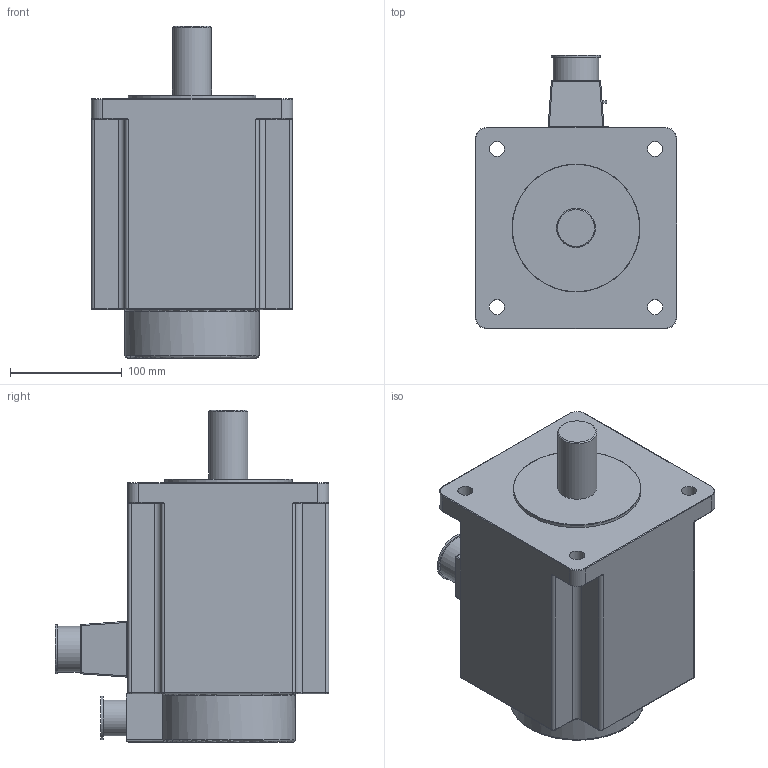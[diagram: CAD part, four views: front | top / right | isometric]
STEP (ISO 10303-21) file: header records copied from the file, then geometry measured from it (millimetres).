
FILE_DESCRIPTION(/* description */ (''),/* implementation_level */ '2;1');
FILE_NAME(/* name */ '180MAH19015.stp',/* time_stamp */ '2019-11-22T13:56:19+08:00',/* author */ (''),/* organization */ (''),/* preprocessor_version */ 'ST-DEVELOPER v16',/* originating_system */ 'SIEMENS PLM Software NX 10.0',/* authorisation */ '');
FILE_SCHEMA (('CONFIG_CONTROL_DESIGN'));
Length unit declared in the file: millimetre
Products named in the file (1): 180MAH19015
Bounding box: 180 x 245 x 297.01 mm (x, y, z)
Volume: 6281745.5 mm3; surface area: 241234.1 mm2
Topology: 1 solids, 1 shells, 160 faces, 365 edges, 207 vertices
Faces by surface type: cylinder 74, plane 34, torus 34, bspline 12, sphere 4, cone 2
Full cylindrical faces by diameter (mm): 13.5 x4, 32 x1, 35 x1, 39 x1, 41 x1, 44 x1, 114.3 x1
Entity records: 4538 total; most frequent: CARTESIAN_POINT 943, DIRECTION 801, ORIENTED_EDGE 676, EDGE_CURVE 338, AXIS2_PLACEMENT_3D 334, VERTEX_POINT 201, EDGE_LOOP 189, CIRCLE 175
